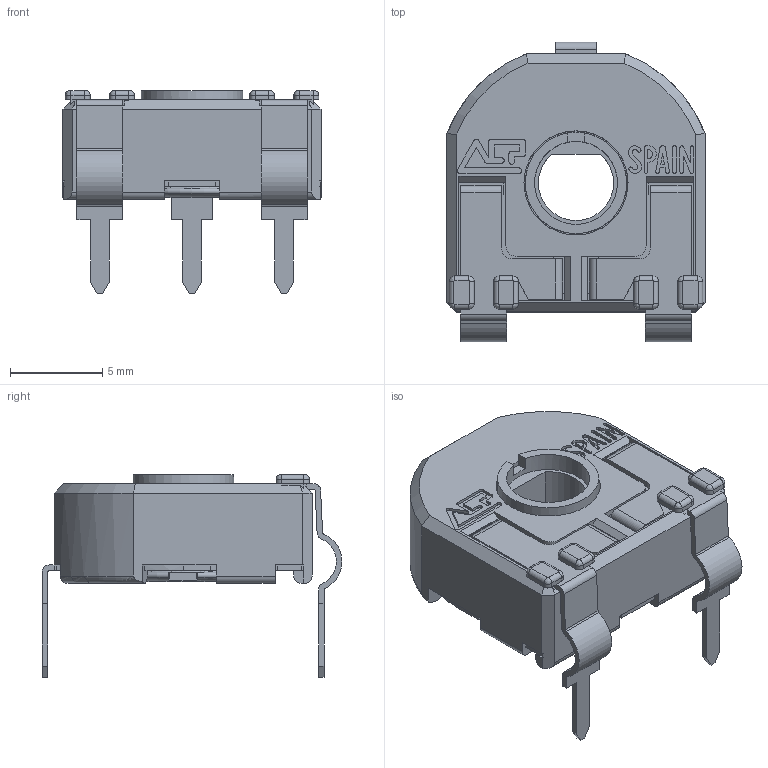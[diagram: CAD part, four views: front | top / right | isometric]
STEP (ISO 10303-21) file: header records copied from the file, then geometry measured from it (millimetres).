
FILE_DESCRIPTION(/* description */ (''),/* implementation_level */ '2;1');
FILE_NAME(/* name */ 'C:\Users\CEM\Desktop\ENVIAR\TRANSICION 3D CATALOGOS\CAR14DVR15.stp',/* time_stamp */ '2025-09-22T09:49:46+02:00',/* author */ ('CEM'),/* organization */ (''),/* preprocessor_version */ 'ST-DEVELOPER v17',/* originating_system */ 'Autodesk Inventor 2018',/* authorisation */ '');
FILE_SCHEMA (('AUTOMOTIVE_DESIGN { 1 0 10303 214 3 1 1 }'));
Length unit declared in the file: millimetre
Products named in the file (1): CAR14DVR15
Bounding box: 14 x 16.27 x 11 mm (x, y, z)
Volume: 546.2 mm3; surface area: 1560 mm2
Topology: 1 solids, 1 shells, 601 faces, 1754 edges, 1125 vertices
Faces by surface type: plane 403, cylinder 155, bspline 20, cone 14, torus 9
Full cylindrical faces by diameter (mm): 1.2 x2, 4.5 x1, 5.5 x1, 5.65 x1, 6.88 x1
Entity records: 20637 total; most frequent: CARTESIAN_POINT 3805, ORIENTED_EDGE 3508, DIRECTION 3309, EDGE_CURVE 1754, LINE 1287, VECTOR 1287, VERTEX_POINT 1125, AXIS2_PLACEMENT_3D 1011
